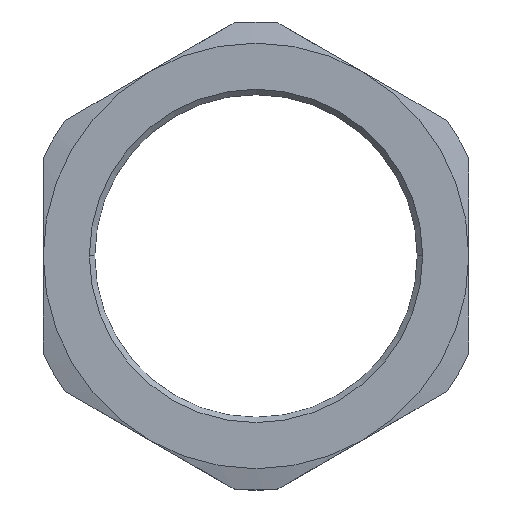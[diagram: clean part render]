
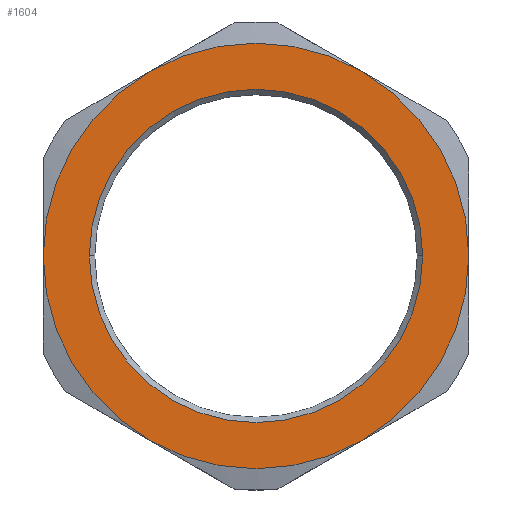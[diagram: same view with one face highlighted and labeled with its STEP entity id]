
A CAD part, top view. The second image highlights one B-rep face of the part: STEP entity #1604.
In plain terms, the highlighted planar face has unit normal (0, 0, 1).
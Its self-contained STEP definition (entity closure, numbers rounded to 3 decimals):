
#324 = DIRECTION ( 'NONE',  ( -1., 0., 0. ) ) ;
#325 = DIRECTION ( 'NONE',  ( 0., 0., -1. ) ) ;
#326 = CARTESIAN_POINT ( 'NONE',  ( 0., 0., 0. ) ) ;
#327 = AXIS2_PLACEMENT_3D ( 'NONE', #326, #325, #324 ) ;
#328 = PLANE ( 'NONE',  #327 ) ;
#329 = FACE_BOUND ( 'NONE', #1655, .T. ) ;
#330 = FACE_OUTER_BOUND ( 'NONE', #1605, .T. ) ;
#502 = DIRECTION ( 'NONE',  ( 1., 0., 0. ) ) ;
#503 = DIRECTION ( 'NONE',  ( 0., 0., 1. ) ) ;
#504 = CARTESIAN_POINT ( 'NONE',  ( 0., 0., 0. ) ) ;
#505 = AXIS2_PLACEMENT_3D ( 'NONE', #504, #503, #502 ) ;
#506 = CIRCLE ( 'NONE', #505, 23.5 ) ;
#507 = CARTESIAN_POINT ( 'NONE',  ( 15., -25.981, 0. ) ) ;
#508 = DIRECTION ( 'NONE',  ( 1., 0., 0. ) ) ;
#509 = DIRECTION ( 'NONE',  ( 0., 0., 1. ) ) ;
#510 = AXIS2_PLACEMENT_3D ( 'NONE', #517, #509, #508 ) ;
#511 = CIRCLE ( 'NONE', #510, 30. ) ;
#512 = DIRECTION ( 'NONE',  ( 1., 0., 0. ) ) ;
#513 = DIRECTION ( 'NONE',  ( 0., 0., 1. ) ) ;
#514 = CARTESIAN_POINT ( 'NONE',  ( 0., 0., 0. ) ) ;
#515 = AXIS2_PLACEMENT_3D ( 'NONE', #514, #513, #512 ) ;
#516 = CIRCLE ( 'NONE', #515, 30. ) ;
#517 = CARTESIAN_POINT ( 'NONE',  ( 0., 0., 0. ) ) ;
#518 = CARTESIAN_POINT ( 'NONE',  ( -30., 0., 0. ) ) ;
#519 = DIRECTION ( 'NONE',  ( 1., 0., 0. ) ) ;
#520 = DIRECTION ( 'NONE',  ( 0., 0., 1. ) ) ;
#521 = CARTESIAN_POINT ( 'NONE',  ( 0., 0., 0. ) ) ;
#522 = AXIS2_PLACEMENT_3D ( 'NONE', #521, #520, #519 ) ;
#523 = CIRCLE ( 'NONE', #522, 30. ) ;
#563 = CARTESIAN_POINT ( 'NONE',  ( -15., -25.981, 0. ) ) ;
#598 = AXIS2_PLACEMENT_3D ( 'NONE', #702, #701, #700 ) ;
#599 = CIRCLE ( 'NONE', #598, 30. ) ;
#600 = CARTESIAN_POINT ( 'NONE',  ( -15., 25.981, 0. ) ) ;
#601 = CARTESIAN_POINT ( 'NONE',  ( 15., 25.981, 0. ) ) ;
#607 = DIRECTION ( 'NONE',  ( 1., 0., 0. ) ) ;
#608 = DIRECTION ( 'NONE',  ( 0., 0., 1. ) ) ;
#609 = CARTESIAN_POINT ( 'NONE',  ( 0., 0., 0. ) ) ;
#610 = AXIS2_PLACEMENT_3D ( 'NONE', #609, #608, #607 ) ;
#611 = CIRCLE ( 'NONE', #610, 30. ) ;
#612 = DIRECTION ( 'NONE',  ( 1., 0., 0. ) ) ;
#613 = DIRECTION ( 'NONE',  ( 0., 0., 1. ) ) ;
#614 = CARTESIAN_POINT ( 'NONE',  ( 0., 0., 0. ) ) ;
#615 = AXIS2_PLACEMENT_3D ( 'NONE', #614, #613, #612 ) ;
#616 = CIRCLE ( 'NONE', #615, 30. ) ;
#700 = DIRECTION ( 'NONE',  ( 1., 0., 0. ) ) ;
#701 = DIRECTION ( 'NONE',  ( 0., 0., 1. ) ) ;
#702 = CARTESIAN_POINT ( 'NONE',  ( 0., 0., 0. ) ) ;
#704 = CARTESIAN_POINT ( 'NONE',  ( 30., 0., 0. ) ) ;
#883 = CARTESIAN_POINT ( 'NONE',  ( 23.5, 0., 0. ) ) ;
#884 = DIRECTION ( 'NONE',  ( 1., 0., 0. ) ) ;
#885 = DIRECTION ( 'NONE',  ( 0., 0., 1. ) ) ;
#886 = AXIS2_PLACEMENT_3D ( 'NONE', #888, #885, #884 ) ;
#887 = CIRCLE ( 'NONE', #886, 23.5 ) ;
#888 = CARTESIAN_POINT ( 'NONE',  ( 0., 0., 0. ) ) ;
#889 = CARTESIAN_POINT ( 'NONE',  ( -23.5, 0., 0. ) ) ;
#1604 = ADVANCED_FACE ( 'NONE', ( #330, #329 ), #328, .F. ) ;
#1605 = EDGE_LOOP ( 'NONE', ( #1680, #1678, #1657, #1668, #1666, #1653 ) ) ;
#1618 = VERTEX_POINT ( 'NONE', #704 ) ;
#1653 = ORIENTED_EDGE ( 'NONE', *, *, #1654, .T. ) ;
#1654 = EDGE_CURVE ( 'NONE', #1667, #1618, #523, .T. ) ;
#1655 = EDGE_LOOP ( 'NONE', ( #1663, #1665 ) ) ;
#1656 = VERTEX_POINT ( 'NONE', #518 ) ;
#1657 = ORIENTED_EDGE ( 'NONE', *, *, #1662, .T. ) ;
#1658 = EDGE_CURVE ( 'NONE', #1656, #1689, #516, .T. ) ;
#1662 = EDGE_CURVE ( 'NONE', #1679, #1656, #511, .T. ) ;
#1663 = ORIENTED_EDGE ( 'NONE', *, *, #1664, .F. ) ;
#1664 = EDGE_CURVE ( 'NONE', #1866, #1863, #506, .T. ) ;
#1665 = ORIENTED_EDGE ( 'NONE', *, *, #1865, .F. ) ;
#1666 = ORIENTED_EDGE ( 'NONE', *, *, #1674, .T. ) ;
#1667 = VERTEX_POINT ( 'NONE', #507 ) ;
#1668 = ORIENTED_EDGE ( 'NONE', *, *, #1658, .T. ) ;
#1674 = EDGE_CURVE ( 'NONE', #1689, #1667, #616, .T. ) ;
#1675 = EDGE_CURVE ( 'NONE', #1677, #1679, #611, .T. ) ;
#1677 = VERTEX_POINT ( 'NONE', #601 ) ;
#1678 = ORIENTED_EDGE ( 'NONE', *, *, #1675, .T. ) ;
#1679 = VERTEX_POINT ( 'NONE', #600 ) ;
#1680 = ORIENTED_EDGE ( 'NONE', *, *, #1681, .T. ) ;
#1681 = EDGE_CURVE ( 'NONE', #1618, #1677, #599, .T. ) ;
#1689 = VERTEX_POINT ( 'NONE', #563 ) ;
#1863 = VERTEX_POINT ( 'NONE', #889 ) ;
#1865 = EDGE_CURVE ( 'NONE', #1863, #1866, #887, .T. ) ;
#1866 = VERTEX_POINT ( 'NONE', #883 ) ;
